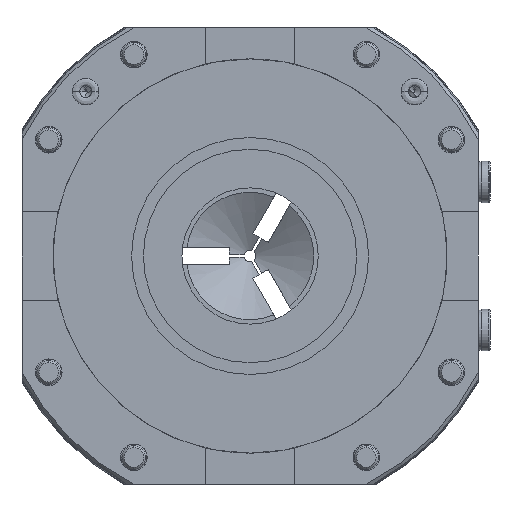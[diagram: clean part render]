
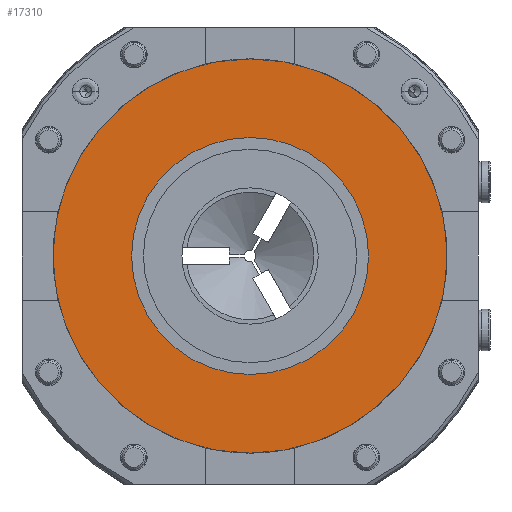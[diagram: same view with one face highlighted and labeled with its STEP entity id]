
A CAD part, front view. The second image highlights one B-rep face of the part: STEP entity #17310.
In plain terms, the highlighted planar face has unit normal (0, -1, 0).
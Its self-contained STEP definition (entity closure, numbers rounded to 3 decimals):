
#243 = CARTESIAN_POINT ( 'NONE',  ( 0., 17.2, 0. ) ) ;
#708 = ORIENTED_EDGE ( 'NONE', *, *, #19473, .T. ) ;
#815 = AXIS2_PLACEMENT_3D ( 'NONE', #16574, #5773, #18375 ) ;
#1337 = CARTESIAN_POINT ( 'NONE',  ( 0., 17.2, -66.55 ) ) ;
#1721 = PLANE ( 'NONE',  #1994 ) ;
#1912 = ORIENTED_EDGE ( 'NONE', *, *, #12243, .T. ) ;
#1994 = AXIS2_PLACEMENT_3D ( 'NONE', #10792, #8979, #14415 ) ;
#2078 = DIRECTION ( 'NONE',  ( 0., 0., -1. ) ) ;
#2270 = DIRECTION ( 'NONE',  ( 0., -1., 0. ) ) ;
#2545 = AXIS2_PLACEMENT_3D ( 'NONE', #243, #12945, #2078 ) ;
#2579 = DIRECTION ( 'NONE',  ( 0., -1., 0. ) ) ;
#2964 = CARTESIAN_POINT ( 'NONE',  ( 0., 17.2, 40. ) ) ;
#3585 = VERTEX_POINT ( 'NONE', #2964 ) ;
#4549 = CIRCLE ( 'NONE', #17342, 66.55 ) ;
#5773 = DIRECTION ( 'NONE',  ( 0., 1., 0. ) ) ;
#6454 = EDGE_LOOP ( 'NONE', ( #708, #16497 ) ) ;
#6721 = EDGE_LOOP ( 'NONE', ( #1912, #16883 ) ) ;
#7046 = CIRCLE ( 'NONE', #815, 40. ) ;
#7605 = VERTEX_POINT ( 'NONE', #1337 ) ;
#7791 = FACE_OUTER_BOUND ( 'NONE', #6721, .T. ) ;
#8979 = DIRECTION ( 'NONE',  ( 0., -1., 0. ) ) ;
#8981 = VERTEX_POINT ( 'NONE', #13137 ) ;
#10792 = CARTESIAN_POINT ( 'NONE',  ( 0., 17.2, 0. ) ) ;
#12243 = EDGE_CURVE ( 'NONE', #7605, #8981, #4549, .T. ) ;
#12581 = FACE_BOUND ( 'NONE', #6454, .T. ) ;
#12945 = DIRECTION ( 'NONE',  ( 0., 1., 0. ) ) ;
#13122 = CARTESIAN_POINT ( 'NONE',  ( 0., 17.2, 0. ) ) ;
#13137 = CARTESIAN_POINT ( 'NONE',  ( 0., 17.2, 66.55 ) ) ;
#13407 = CARTESIAN_POINT ( 'NONE',  ( 0., 17.2, -40. ) ) ;
#13423 = CARTESIAN_POINT ( 'NONE',  ( 0., 17.2, 0. ) ) ;
#14415 = DIRECTION ( 'NONE',  ( 0., 0., -1. ) ) ;
#14932 = DIRECTION ( 'NONE',  ( 0., 0., -1. ) ) ;
#15233 = DIRECTION ( 'NONE',  ( 0., 0., -1. ) ) ;
#16497 = ORIENTED_EDGE ( 'NONE', *, *, #21308, .T. ) ;
#16574 = CARTESIAN_POINT ( 'NONE',  ( 0., 17.2, 0. ) ) ;
#16883 = ORIENTED_EDGE ( 'NONE', *, *, #17025, .T. ) ;
#17025 = EDGE_CURVE ( 'NONE', #8981, #7605, #22949, .T. ) ;
#17310 = ADVANCED_FACE ( 'NONE', ( #7791, #12581 ), #1721, .T. ) ;
#17342 = AXIS2_PLACEMENT_3D ( 'NONE', #13423, #2579, #15233 ) ;
#18375 = DIRECTION ( 'NONE',  ( 0., 0., -1. ) ) ;
#18523 = VERTEX_POINT ( 'NONE', #13407 ) ;
#19473 = EDGE_CURVE ( 'NONE', #18523, #3585, #7046, .T. ) ;
#19942 = CIRCLE ( 'NONE', #2545, 40. ) ;
#21308 = EDGE_CURVE ( 'NONE', #3585, #18523, #19942, .T. ) ;
#22233 = AXIS2_PLACEMENT_3D ( 'NONE', #13122, #2270, #14932 ) ;
#22949 = CIRCLE ( 'NONE', #22233, 66.55 ) ;
